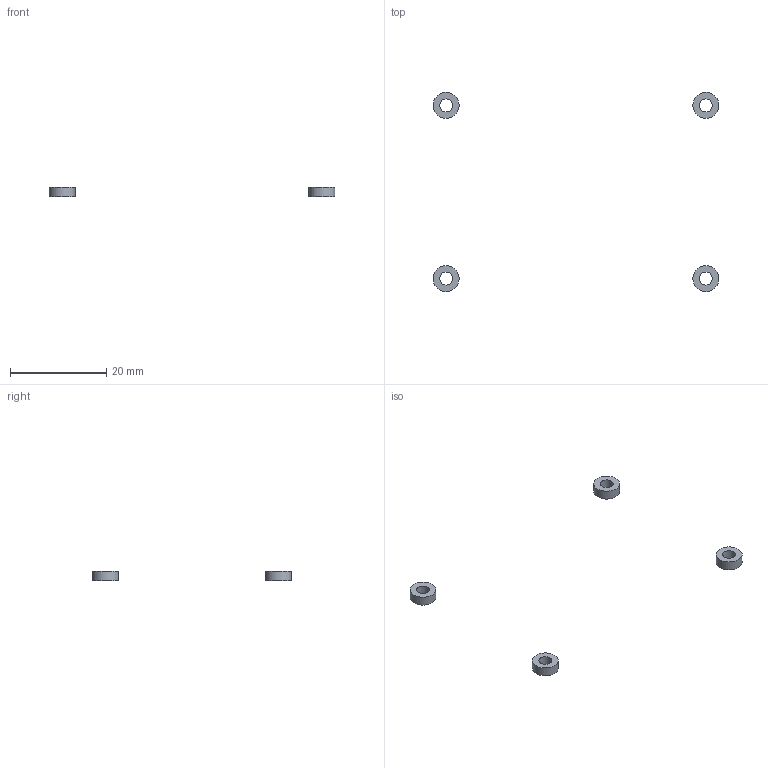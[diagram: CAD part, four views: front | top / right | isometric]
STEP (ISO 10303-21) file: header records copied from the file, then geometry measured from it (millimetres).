
FILE_DESCRIPTION(('Open CASCADE Model'),'2;1');
FILE_NAME('Open CASCADE Shape Model','2026-11-05T02:23:55',('Author'),( 'Open CASCADE'),'Open CASCADE STEP processor 7.8','Open CASCADE 7.8' ,'Unknown');
FILE_SCHEMA(('AUTOMOTIVE_DESIGN { 1 0 10303 214 1 1 1 1 }'));
Length unit declared in the file: millimetre
Products named in the file (5): Open CASCADE STEP translator 7.8 9; Open CASCADE STEP translator 7.8 9.1; Open CASCADE STEP translator 7.8 9.2; Open CASCADE STEP translator 7.8 9.3; Open CASCADE STEP translator 7.8 9.4
Assembly tree (4 placements, depth 2):
  Open CASCADE STEP translator 7.8 9
    Open CASCADE STEP translator 7.8 9.1
    Open CASCADE STEP translator 7.8 9.2
    Open CASCADE STEP translator 7.8 9.3
    Open CASCADE STEP translator 7.8 9.4
Bounding box: 59.4 x 41.4 x 2 mm (x, y, z)
Volume: 137.4 mm3; surface area: 341 mm2
Topology: 4 solids, 4 shells, 16 faces, 24 edges, 16 vertices
Faces by surface type: cylinder 8, plane 8
Full cylindrical faces by diameter (mm): 2.7 x4, 5.4 x4
Entity records: 792 total; most frequent: CARTESIAN_POINT 157, DIRECTION 122, ORIENTED_EDGE 48, PCURVE 48, DEFINITIONAL_REPRESENTATION 48, LINE 40, VECTOR 40, AXIS2_PLACEMENT_3D 37
